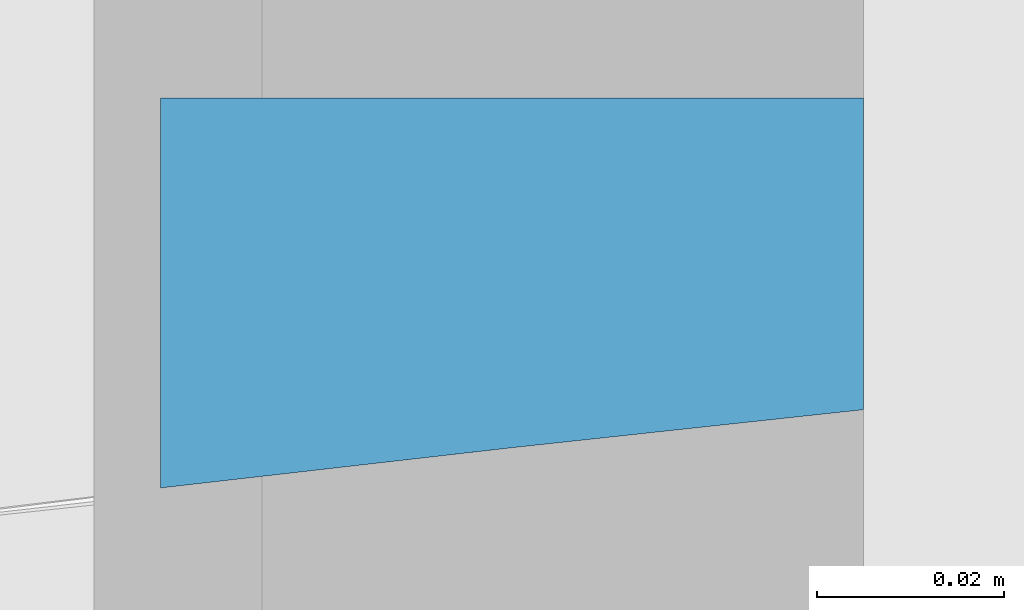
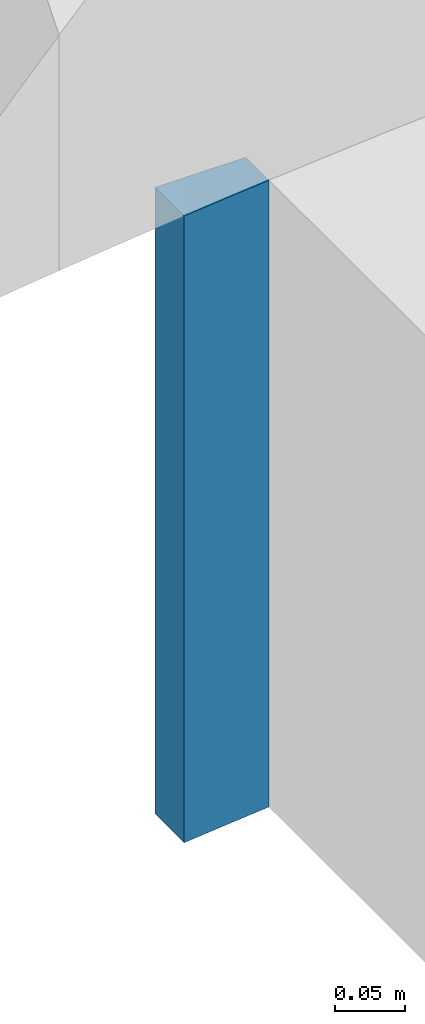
# One storey, part 62 of 100: 1 beam.
"""IFC2X3 building model written with IfcOpenShell, lengths in millimetres."""

from ifc_helpers import new_model, entity, si_unit, converted_unit, derived_unit, direction, frame, origin, place, context, subcontext, project, spatial, faceted_brep, material, type_object, element, save


model = new_model("IFC2X3")

# Units and contexts
model_context = context("Model", 3, precision=0.01, world=origin(), true_north=direction((6.123031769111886e-17, 1.0)))
body_context = subcontext(model_context, "Body", "Model", "MODEL_VIEW")
ifc_project = project(units=[si_unit("LENGTHUNIT", "METRE", prefix="MILLI"), si_unit("AREAUNIT", "SQUARE_METRE"), si_unit("VOLUMEUNIT", "CUBIC_METRE"), converted_unit("PLANEANGLEUNIT", "DEGREE", entity("IfcRatioMeasure", 0.017453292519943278), si_unit("PLANEANGLEUNIT", "RADIAN"), dimensions=[0, 0, 0, 0, 0, 0, 0]), si_unit("MASSUNIT", "GRAM", prefix="KILO"), derived_unit("MASSDENSITYUNIT", [(si_unit("MASSUNIT", "GRAM", prefix="KILO"), 1), (si_unit("LENGTHUNIT", "METRE"), -3)]), derived_unit("MOMENTOFINERTIAUNIT", [(si_unit("LENGTHUNIT", "METRE"), 4)]), si_unit("TIMEUNIT", "SECOND"), si_unit("FREQUENCYUNIT", "HERTZ"), si_unit("THERMODYNAMICTEMPERATUREUNIT", "DEGREE_CELSIUS"), derived_unit("THERMALTRANSMITTANCEUNIT", [(si_unit("MASSUNIT", "GRAM", prefix="KILO"), 1), (si_unit("THERMODYNAMICTEMPERATUREUNIT", "KELVIN"), -1), (si_unit("TIMEUNIT", "SECOND"), -3)]), derived_unit("VOLUMETRICFLOWRATEUNIT", [(si_unit("LENGTHUNIT", "METRE"), 3), (si_unit("TIMEUNIT", "SECOND"), -1)]), derived_unit("MASSFLOWRATEUNIT", [(si_unit("MASSUNIT", "GRAM", prefix="KILO"), 1), (si_unit("TIMEUNIT", "SECOND"), -1)]), derived_unit("ROTATIONALFREQUENCYUNIT", [(si_unit("TIMEUNIT", "SECOND"), -1)]), si_unit("ELECTRICCURRENTUNIT", "AMPERE"), si_unit("ELECTRICVOLTAGEUNIT", "VOLT"), si_unit("POWERUNIT", "WATT"), si_unit("FORCEUNIT", "NEWTON", prefix="KILO"), si_unit("ILLUMINANCEUNIT", "LUX"), si_unit("LUMINOUSFLUXUNIT", "LUMEN"), si_unit("LUMINOUSINTENSITYUNIT", "CANDELA"), derived_unit("USERDEFINED", [(si_unit("MASSUNIT", "GRAM", prefix="KILO"), -1), (si_unit("LENGTHUNIT", "METRE"), -2), (si_unit("TIMEUNIT", "SECOND"), 3), (si_unit("LUMINOUSFLUXUNIT", "LUMEN"), 1)]), derived_unit("SOUNDPOWERUNIT", [(si_unit("MASSUNIT", "GRAM", prefix="KILO"), 1), (si_unit("LENGTHUNIT", "METRE"), 2), (si_unit("TIMEUNIT", "SECOND"), -3)]), derived_unit("SOUNDPRESSUREUNIT", [(si_unit("MASSUNIT", "GRAM", prefix="KILO"), 1), (si_unit("LENGTHUNIT", "METRE"), -1), (si_unit("TIMEUNIT", "SECOND"), -2)]), derived_unit("LINEARVELOCITYUNIT", [(si_unit("LENGTHUNIT", "METRE"), 1), (si_unit("TIMEUNIT", "SECOND"), -1)]), si_unit("PRESSUREUNIT", "PASCAL"), derived_unit("USERDEFINED", [(si_unit("LENGTHUNIT", "METRE"), -2), (si_unit("MASSUNIT", "GRAM", prefix="KILO"), 1), (si_unit("TIMEUNIT", "SECOND"), -2)]), derived_unit("LINEARFORCEUNIT", [(si_unit("MASSUNIT", "GRAM", prefix="KILO"), 1), (si_unit("LENGTHUNIT", "METRE"), 1), (si_unit("TIMEUNIT", "SECOND"), -2), (si_unit("LENGTHUNIT", "METRE"), -1)]), derived_unit("PLANARFORCEUNIT", [(si_unit("MASSUNIT", "GRAM", prefix="KILO"), 1), (si_unit("LENGTHUNIT", "METRE"), 1), (si_unit("TIMEUNIT", "SECOND"), -2), (si_unit("LENGTHUNIT", "METRE"), -2)])], contexts=[model_context])

# Site, building, storey
site_placement = place(None, frame((-14167.972527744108, -657.2125860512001, 0.0)))
site = spatial("IfcSite", under=ifc_project, at=site_placement, Name="Default", CompositionType="ELEMENT")
building_placement = place(site_placement, origin())
building = spatial("IfcBuilding", under=site, at=building_placement, Name="Sample Building", CompositionType="ELEMENT")
storey_placement = place(building_placement, origin())
storey = spatial("IfcBuildingStorey", under=building, at=storey_placement, Name="지상 1층", CompositionType="ELEMENT", Elevation=0.0)

# Beam
ifc_material = material(Name="KBIMS-콘크리트")
beam_type = type_object("IfcBeamType", Name="BM111-철근콘크리트구조 보:BM110-철근 콘크리트구조 보_400 x 850_B1-1WG1", PredefinedType="BEAM", material=ifc_material)
beam_placement = place(storey_placement, frame((30053.651158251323, 29213.836375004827, -1400.0)))
element("IfcBeam", 1, at=beam_placement, inside=storey, type_object=beam_type, material=ifc_material, Name="BM111-철근콘크리트구조 보:BM110-철근 콘크리트구조 보_400 x 850_B1-1WG1", ObjectType="BM111-철근콘크리트구조 보:BM110-철근 콘크리트구조 보_400 x 850_B1-1WG1", context=body_context, shape_type="Brep", body=[
    faceted_brep([(1.595272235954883, 43.37624203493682, 0.0), (1.595272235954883, 1.5952722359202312, 0.0), (1.5952722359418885, 1.5952722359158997, 340.88854543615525), (1.595272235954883, 1.5952722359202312, 550.0), (1.595272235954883, 43.37624203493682, 550.0), (39.23197917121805, 5.904643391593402, 550.0), (76.8947225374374, 9.98019866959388, 550.0), (76.8947225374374, 43.37624203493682, 550.0), (76.8947225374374, 43.37624203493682, 0.0), (76.89472253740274, 9.98019866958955, 0.0), (39.23197917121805, 5.904643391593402, 0.0), (76.8947225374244, 9.98019866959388, 209.11145456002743), (39.58774043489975, 5.944248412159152, 275.0)], [[[0, 1, 2, 3, 4]], [[5, 6, 7, 4, 3]], [[8, 9, 10, 1, 0]], [[7, 8, 0, 4]], [[8, 7, 6, 11, 9]], [[9, 11, 10]], [[5, 3, 2]], [[12, 10, 11]], [[12, 5, 2]], [[5, 12, 6]], [[12, 2, 1]], [[1, 10, 12]], [[12, 11, 6]]]),
])

save(model, "model.ifc")
